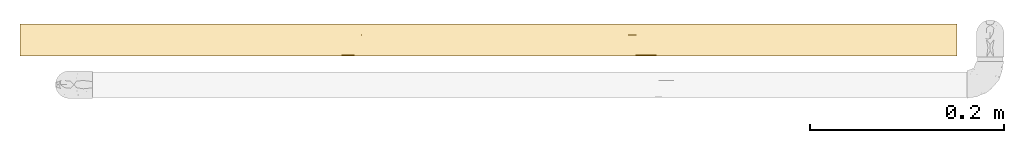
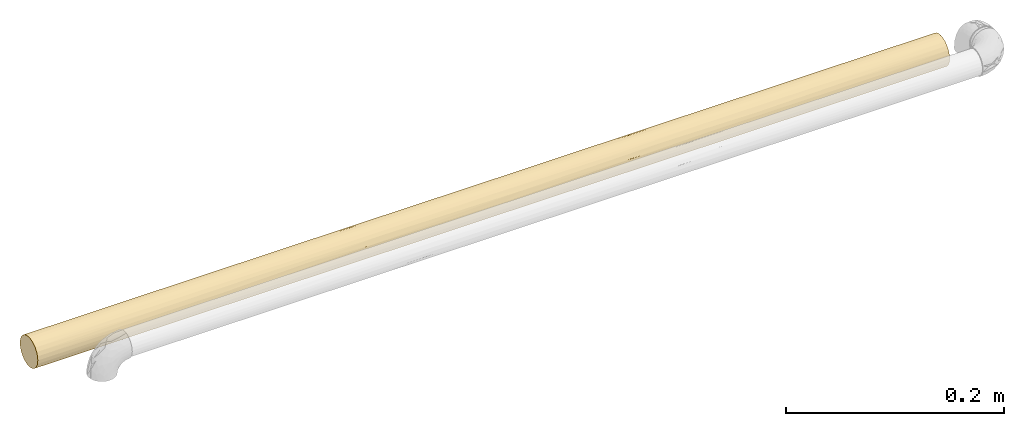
# One storey, part 1 of 4: 1 covering.
"""IFC2X3 building model written with IfcOpenShell, lengths in metres."""

from ifc_helpers import new_model, entity, si_unit, converted_unit, derived_unit, direction, frame, origin, place, context, subcontext, project, spatial, faceted_brep, material, type_object, element, save


model = new_model("IFC2X3")

# Units and contexts
model_context = context("Model", 3, precision=1e-05, world=origin(), true_north=direction((6.123031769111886e-17, 1.0)))
body_context = subcontext(model_context, "Body", "Model", "MODEL_VIEW")
ifc_project = project(units=[si_unit("LENGTHUNIT", "METRE"), si_unit("AREAUNIT", "SQUARE_METRE"), si_unit("VOLUMEUNIT", "CUBIC_METRE"), converted_unit("PLANEANGLEUNIT", "DEGREE", entity("IfcPlaneAngleMeasure", 0.017453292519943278), si_unit("PLANEANGLEUNIT", "RADIAN"), dimensions=[0, 0, 0, 0, 0, 0, 0]), si_unit("MASSUNIT", "GRAM", prefix="KILO"), derived_unit("MASSDENSITYUNIT", [(si_unit("MASSUNIT", "GRAM", prefix="KILO"), 1), (si_unit("LENGTHUNIT", "METRE"), -3)]), derived_unit("IONCONCENTRATIONUNIT", [(si_unit("MASSUNIT", "GRAM", prefix="KILO"), 1), (si_unit("LENGTHUNIT", "METRE"), -3)]), derived_unit("MOMENTOFINERTIAUNIT", [(si_unit("LENGTHUNIT", "METRE"), 4)]), si_unit("TIMEUNIT", "SECOND"), si_unit("FREQUENCYUNIT", "HERTZ"), si_unit("THERMODYNAMICTEMPERATUREUNIT", "DEGREE_CELSIUS"), derived_unit("THERMALTRANSMITTANCEUNIT", [(si_unit("MASSUNIT", "GRAM", prefix="KILO"), 1), (si_unit("THERMODYNAMICTEMPERATUREUNIT", "KELVIN"), -1), (si_unit("TIMEUNIT", "SECOND"), -3)]), derived_unit("THERMALCONDUCTANCEUNIT", [(si_unit("MASSUNIT", "GRAM", prefix="KILO"), 1), (si_unit("THERMODYNAMICTEMPERATUREUNIT", "KELVIN"), -1), (si_unit("TIMEUNIT", "SECOND"), -3), (si_unit("LENGTHUNIT", "METRE"), 1)]), derived_unit("VOLUMETRICFLOWRATEUNIT", [(si_unit("LENGTHUNIT", "METRE", prefix="DECI"), 3), (si_unit("TIMEUNIT", "SECOND"), -1)]), derived_unit("MASSFLOWRATEUNIT", [(si_unit("MASSUNIT", "GRAM", prefix="KILO"), 1), (si_unit("TIMEUNIT", "SECOND"), -1)]), derived_unit("ROTATIONALFREQUENCYUNIT", [(si_unit("TIMEUNIT", "SECOND"), -1)]), si_unit("ELECTRICCURRENTUNIT", "AMPERE"), si_unit("ELECTRICVOLTAGEUNIT", "VOLT"), si_unit("POWERUNIT", "WATT"), si_unit("FORCEUNIT", "NEWTON", prefix="KILO"), si_unit("ILLUMINANCEUNIT", "LUX"), si_unit("LUMINOUSFLUXUNIT", "LUMEN"), si_unit("LUMINOUSINTENSITYUNIT", "CANDELA"), si_unit("ENERGYUNIT", "JOULE"), derived_unit("USERDEFINED", [(si_unit("MASSUNIT", "GRAM", prefix="KILO"), -1), (si_unit("LENGTHUNIT", "METRE"), -2), (si_unit("TIMEUNIT", "SECOND"), 3), (si_unit("LUMINOUSFLUXUNIT", "LUMEN"), 1)]), derived_unit("USERDEFINED", [(si_unit("MASSUNIT", "GRAM", prefix="KILO"), 1), (si_unit("TIMEUNIT", "SECOND"), -3), (si_unit("LENGTHUNIT", "METRE"), 3), (si_unit("ELECTRICCURRENTUNIT", "AMPERE"), -2)]), derived_unit("SOUNDPOWERUNIT", [(si_unit("MASSUNIT", "GRAM", prefix="KILO"), 1), (si_unit("TIMEUNIT", "SECOND"), -3), (si_unit("LENGTHUNIT", "METRE"), 2)]), derived_unit("SOUNDPRESSUREUNIT", [(si_unit("MASSUNIT", "GRAM", prefix="KILO"), 1), (si_unit("LENGTHUNIT", "METRE"), -1), (si_unit("TIMEUNIT", "SECOND"), -2)]), derived_unit("LINEARVELOCITYUNIT", [(si_unit("LENGTHUNIT", "METRE"), 1), (si_unit("TIMEUNIT", "SECOND"), -1)]), si_unit("PRESSUREUNIT", "PASCAL"), derived_unit("USERDEFINED", [(si_unit("MASSUNIT", "GRAM", prefix="KILO"), 1), (si_unit("LENGTHUNIT", "METRE"), -2), (si_unit("TIMEUNIT", "SECOND"), -2)]), derived_unit("LINEARFORCEUNIT", [(si_unit("MASSUNIT", "GRAM", prefix="KILO"), 1), (si_unit("TIMEUNIT", "SECOND"), -2)]), derived_unit("PLANARFORCEUNIT", [(si_unit("MASSUNIT", "GRAM", prefix="KILO"), 1), (si_unit("LENGTHUNIT", "METRE"), -1), (si_unit("TIMEUNIT", "SECOND"), -2)]), derived_unit("SPECIFICHEATCAPACITYUNIT", [(si_unit("THERMODYNAMICTEMPERATUREUNIT", "KELVIN"), -1), (si_unit("LENGTHUNIT", "METRE"), 2), (si_unit("TIMEUNIT", "SECOND"), -2)]), derived_unit("HEATFLUXDENSITYUNIT", [(si_unit("MASSUNIT", "GRAM", prefix="KILO"), 1), (si_unit("TIMEUNIT", "SECOND"), -3)]), derived_unit("HEATINGVALUEUNIT", [(si_unit("LENGTHUNIT", "METRE"), 2), (si_unit("TIMEUNIT", "SECOND"), -2)]), derived_unit("VAPORPERMEABILITYUNIT", [(si_unit("LENGTHUNIT", "METRE"), -1), (si_unit("TIMEUNIT", "SECOND"), 1)]), derived_unit("DYNAMICVISCOSITYUNIT", [(si_unit("MASSUNIT", "GRAM", prefix="KILO"), 1), (si_unit("TIMEUNIT", "SECOND"), -1), (si_unit("LENGTHUNIT", "METRE"), -1)]), derived_unit("THERMALEXPANSIONCOEFFICIENTUNIT", [(si_unit("THERMODYNAMICTEMPERATUREUNIT", "KELVIN"), -1)]), derived_unit("MODULUSOFELASTICITYUNIT", [(si_unit("MASSUNIT", "GRAM", prefix="KILO"), 1), (si_unit("LENGTHUNIT", "METRE"), -1), (si_unit("TIMEUNIT", "SECOND"), -2)]), derived_unit("ISOTHERMALMOISTURECAPACITYUNIT", [(si_unit("MASSUNIT", "GRAM", prefix="KILO"), -1), (si_unit("LENGTHUNIT", "METRE"), 3)]), derived_unit("MOISTUREDIFFUSIVITYUNIT", [(si_unit("TIMEUNIT", "SECOND"), -1), (si_unit("LENGTHUNIT", "METRE"), 2)]), derived_unit("MASSPERLENGTHUNIT", [(si_unit("MASSUNIT", "GRAM", prefix="KILO"), 1), (si_unit("LENGTHUNIT", "METRE"), -1)]), derived_unit("THERMALRESISTANCEUNIT", [(si_unit("MASSUNIT", "GRAM", prefix="KILO"), -1), (si_unit("TIMEUNIT", "SECOND"), 3), (si_unit("THERMODYNAMICTEMPERATUREUNIT", "KELVIN"), 1)]), derived_unit("ACCELERATIONUNIT", [(si_unit("LENGTHUNIT", "METRE"), 1), (si_unit("TIMEUNIT", "SECOND"), -2)]), derived_unit("ANGULARVELOCITYUNIT", [(si_unit("TIMEUNIT", "SECOND"), -1), (si_unit("PLANEANGLEUNIT", "RADIAN"), 1)]), derived_unit("LINEARSTIFFNESSUNIT", [(si_unit("MASSUNIT", "GRAM", prefix="KILO"), 1), (si_unit("TIMEUNIT", "SECOND"), -2)]), derived_unit("WARPINGCONSTANTUNIT", [(si_unit("LENGTHUNIT", "METRE"), 6)]), derived_unit("LINEARMOMENTUNIT", [(si_unit("MASSUNIT", "GRAM", prefix="KILO"), 1), (si_unit("LENGTHUNIT", "METRE"), 1), (si_unit("TIMEUNIT", "SECOND"), -2)]), derived_unit("TORQUEUNIT", [(si_unit("MASSUNIT", "GRAM", prefix="KILO"), 1), (si_unit("LENGTHUNIT", "METRE"), 2), (si_unit("TIMEUNIT", "SECOND"), -2)])], contexts=[model_context])

# Site, building, storey
site_placement = place(None, origin())
site = spatial("IfcSite", under=ifc_project, at=site_placement, Name="Default", CompositionType="ELEMENT")
building_placement = place(site_placement, origin())
building = spatial("IfcBuilding", under=site, at=building_placement, CompositionType="ELEMENT")
storey_placement = place(building_placement, frame((0.0, 0.0, 2.4999999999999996)))
storey = spatial("IfcBuildingStorey", under=building, at=storey_placement, Name="Niveau 1", CompositionType="ELEMENT", Elevation=2.4999999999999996)

# Covering
ifc_material = material(Name="Matériau du rendu 255-255-255")
covering_type = type_object("IfcCoveringType", Name="Isolation des canalisations:Par défaut", PredefinedType="INSULATION")
covering_placement = place(storey_placement, frame((-14.57600147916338, 2.767581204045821, -0.047616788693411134)))
element("IfcCovering", 1, at=covering_placement, inside=storey, type_object=covering_type, material=ifc_material, Name="Isolation des canalisations:Par défaut", ObjectType="Isolation des canalisations:Par défaut", PredefinedType="INSULATION", context=body_context, shape_type="Brep", body=[
    faceted_brep([(0.0, 0.002152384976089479, -0.02217696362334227), (0.0, 0.0015952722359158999, -0.017945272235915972), (0.0, 0.002152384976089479, -0.013713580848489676), (0.0, 0.0037857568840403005, -0.009770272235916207), (0.0, 0.006384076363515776, -0.006384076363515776), (0.0, 0.009770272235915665, -0.0037857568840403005), (0.0, 0.013713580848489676, -0.002152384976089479), (0.0, 0.017945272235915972, -0.0015952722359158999), (0.0, 0.02217696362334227, -0.002152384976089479), (0.0, 0.02612027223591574, -0.0037857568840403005), (0.0, 0.02950646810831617, -0.006384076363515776), (0.0, 0.032104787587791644, -0.009770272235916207), (0.0, 0.033738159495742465, -0.013713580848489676), (0.0, 0.034295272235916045, -0.017945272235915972), (0.0, 0.033738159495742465, -0.02217696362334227), (0.0, 0.032104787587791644, -0.02612027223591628), (0.0, 0.02950646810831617, -0.02950646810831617), (0.0, 0.02612027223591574, -0.032104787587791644), (0.0, 0.02217696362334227, -0.03373815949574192), (0.0, 0.017945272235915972, -0.034295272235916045), (0.0, 0.013713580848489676, -0.03373815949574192), (0.0, 0.009770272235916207, -0.032104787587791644), (0.0, 0.006384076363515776, -0.02950646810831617), (0.0, 0.0037857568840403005, -0.02612027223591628), (0.9664000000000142, 0.0037857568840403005, -0.026120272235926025), (0.9664000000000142, 0.006384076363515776, -0.029506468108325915), (0.9664000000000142, 0.009770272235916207, -0.032104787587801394), (0.9664000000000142, 0.013713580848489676, -0.03373815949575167), (0.9664000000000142, 0.017945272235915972, -0.034295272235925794), (0.9664000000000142, 0.02217696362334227, -0.03373815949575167), (0.9664000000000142, 0.02612027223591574, -0.032104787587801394), (0.9664000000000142, 0.02950646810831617, -0.029506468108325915), (0.9664000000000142, 0.032104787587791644, -0.026120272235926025), (0.9664000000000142, 0.033738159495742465, -0.022176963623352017), (0.9664000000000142, 0.034295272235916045, -0.017945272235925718), (0.9664000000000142, 0.033738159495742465, -0.013713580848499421), (0.9664000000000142, 0.032104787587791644, -0.009770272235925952), (0.9664000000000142, 0.02950646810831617, -0.006384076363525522), (0.9664000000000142, 0.02612027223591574, -0.0037857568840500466), (0.9664000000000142, 0.02217696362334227, -0.002152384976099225), (0.9664000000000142, 0.017945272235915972, -0.0015952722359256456), (0.9664000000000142, 0.013713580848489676, -0.002152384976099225), (0.9664000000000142, 0.009770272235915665, -0.0037857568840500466), (0.9664000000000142, 0.006384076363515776, -0.006384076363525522), (0.9664000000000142, 0.0037857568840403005, -0.009770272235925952), (0.9664000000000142, 0.002152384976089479, -0.013713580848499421), (0.9664000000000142, 0.0015952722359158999, -0.017945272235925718), (0.9664000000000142, 0.002152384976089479, -0.022176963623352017), (0.8773845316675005, 0.02789852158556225, -0.030916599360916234), (0.40164985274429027, 0.034295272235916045, -0.017945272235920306), (0.34201247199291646, 0.033942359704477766, -0.021323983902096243), (0.2823750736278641, 0.034295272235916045, -0.01794527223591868), (0.4886665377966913, 0.03201548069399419, -0.02627304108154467), (0.45397520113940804, 0.029688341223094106, -0.029321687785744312), (0.37914119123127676, 0.03105394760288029, -0.027716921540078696), (0.8396153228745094, 0.03091659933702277, -0.027898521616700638), (0.7713295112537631, 0.03305070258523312, -0.024202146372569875), (0.8786145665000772, 0.033050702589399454, -0.02420214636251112), (0.660324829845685, 0.02109354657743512, -0.033989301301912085), (0.6883694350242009, 0.024084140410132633, -0.0330990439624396), (0.7546186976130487, 0.021016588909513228, -0.03400421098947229), (0.824972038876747, 0.03392628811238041, -0.021399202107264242), (0.8252124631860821, 0.034295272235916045, -0.017945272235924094), (0.7226715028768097, 0.03396491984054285, -0.021215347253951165), (0.2172714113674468, 0.033877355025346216, -0.021618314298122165), (0.8388278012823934, 0.02420214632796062, -0.033050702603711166), (0.5831631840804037, 0.027249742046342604, -0.031389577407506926), (0.6765246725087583, 0.029184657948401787, -0.029819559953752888), (0.6896230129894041, 0.026801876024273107, -0.03168874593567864), (0.11975167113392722, 0.0330507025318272, -0.02420214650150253), (0.22269615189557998, 0.03264665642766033, -0.025100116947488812), (0.6481070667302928, 0.032938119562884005, -0.02446731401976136), (0.7162560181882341, 0.031370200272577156, -0.02727767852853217), (0.6032004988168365, 0.03091659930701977, -0.027898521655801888), (0.07599774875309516, 0.03091659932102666, -0.027898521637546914), (0.11975166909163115, 0.027898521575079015, -0.030916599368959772), (0.4408931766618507, 0.021472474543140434, -0.03391027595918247), (0.40164987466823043, 0.017945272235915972, -0.034295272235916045), (0.34201246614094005, 0.023062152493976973, -0.03347395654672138), (0.07599774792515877, 0.02420214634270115, -0.03305070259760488), (0.14118753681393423, 0.034295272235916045, -0.017945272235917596), (0.09382632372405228, 0.034009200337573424, -0.02099038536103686), (0.1738724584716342, 0.0309165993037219, -0.027898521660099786), (0.21540548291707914, 0.028744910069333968, -0.03022087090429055), (0.17387245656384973, 0.024202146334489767, -0.03305070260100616), (0.28237508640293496, 0.017945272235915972, -0.034295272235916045), (0.14118754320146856, 0.017945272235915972, -0.034295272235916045), (0.12493510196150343, 0.02133072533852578, -0.033940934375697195), (0.23223500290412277, 0.021217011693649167, -0.033964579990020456), (0.6840249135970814, 0.017945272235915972, -0.034295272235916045), (0.5647501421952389, 0.017945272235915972, -0.034295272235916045), (0.5428373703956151, 0.017945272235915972, -0.034295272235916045), (0.4239004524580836, 0.033413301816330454, -0.02324268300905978), (0.3420124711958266, 0.03265503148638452, -0.02508288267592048), (0.2827763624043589, 0.031001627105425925, -0.027786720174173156), (0.2598773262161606, 0.023936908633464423, -0.03315785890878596), (0.45638938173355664, 0.026049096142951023, -0.03214564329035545), (0.5428373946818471, 0.02283134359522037, -0.03354811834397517), (0.7690906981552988, 0.027898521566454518, -0.030916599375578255), (0.8252124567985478, 0.017945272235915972, -0.034295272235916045), (0.8488832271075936, 0.021092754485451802, -0.033989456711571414), (0.31105929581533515, 0.02789852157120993, -0.030916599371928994), (0.5228243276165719, 0.03357007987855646, -0.022760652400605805), (0.6148392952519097, 0.03403924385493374, -0.02082738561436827), (0.5428373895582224, 0.034295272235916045, -0.01794527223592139), (0.6840249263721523, 0.034295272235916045, -0.017945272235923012), (0.4235626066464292, 0.017945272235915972, -0.034295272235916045), (0.7713295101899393, 0.002839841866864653, -0.02420214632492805), (0.8249720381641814, 0.0019642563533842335, -0.021399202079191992), (0.7226715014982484, 0.00192562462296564, -0.02121534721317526), (0.6243875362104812, 0.01277819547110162, -0.033457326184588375), (0.839615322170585, 0.004973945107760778, -0.027898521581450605), (0.8580045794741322, 0.007992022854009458, -0.030916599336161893), (0.8786145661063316, 0.00283984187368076, -0.0242021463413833), (0.893527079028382, 0.011688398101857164, -0.03305070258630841), (0.1414279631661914, 0.0144913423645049, -0.03392628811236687), (0.19507049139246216, 0.011688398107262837, -0.03305070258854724), (0.08778543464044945, 0.01168839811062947, -0.03305070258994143), (0.07884681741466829, 0.004973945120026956, -0.027898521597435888), (0.6679527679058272, 0.007992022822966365, -0.030916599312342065), (0.7629786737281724, 0.008839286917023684, -0.03152479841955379), (0.7050834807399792, 0.004846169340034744, -0.027729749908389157), (0.35296884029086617, 0.012950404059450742, -0.03351363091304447), (0.49415637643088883, 0.01398480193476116, -0.03380834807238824), (0.515576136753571, 0.009191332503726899, -0.031754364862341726), (0.1411875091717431, 0.0015952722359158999, -0.017945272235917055), (0.09405018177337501, 0.0018830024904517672, -0.020999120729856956), (0.21785851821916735, 0.0020106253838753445, -0.02160717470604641), (0.12135929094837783, 0.0028398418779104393, -0.024202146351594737), (0.40164974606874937, 0.0015952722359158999, -0.017945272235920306), (0.34201246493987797, 0.001945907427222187, -0.021313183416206), (0.46034606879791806, 0.001983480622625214, -0.021486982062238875), (0.8457927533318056, 0.014585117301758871, -0.03394626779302), (0.7370502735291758, 0.01467186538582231, -0.03396423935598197), (0.17894987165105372, 0.004973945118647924, -0.02789852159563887), (0.12135929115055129, 0.007992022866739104, -0.030916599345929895), (0.8252122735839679, 0.0015952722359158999, -0.017945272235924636), (0.2823750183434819, 0.0015952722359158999, -0.01794527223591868), (0.36319950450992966, 0.007992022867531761, -0.030916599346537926), (0.4771811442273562, 0.005142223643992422, -0.028114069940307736), (0.342012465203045, 0.003226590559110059, -0.02506446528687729), (0.24227939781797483, 0.007486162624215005, -0.030512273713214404), (0.31771535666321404, 0.005341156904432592, -0.02835962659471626), (0.709024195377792, 0.011861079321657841, -0.033121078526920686), (0.7980584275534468, 0.011688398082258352, -0.03305070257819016), (0.24372850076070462, 0.014675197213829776, -0.033964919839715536), (0.2895823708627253, 0.010201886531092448, -0.03234535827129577), (0.22383177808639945, 0.0032271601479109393, -0.025065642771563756), (0.5428372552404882, 0.0015952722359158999, -0.01794527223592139), (0.4235627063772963, 0.0015952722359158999, -0.017945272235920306), (0.5930290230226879, 0.005674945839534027, -0.02875089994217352), (0.6148584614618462, 0.0018512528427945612, -0.02082711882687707), (0.5551037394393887, 0.00269685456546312, -0.02384512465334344), (0.662916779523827, 0.002843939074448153, -0.02421202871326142), (0.4534548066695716, 0.003204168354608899, -0.02501792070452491), (0.6014906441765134, 0.003857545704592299, -0.026243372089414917), (0.6840247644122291, 0.0015952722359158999, -0.017945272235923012), (0.5647502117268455, 0.0015952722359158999, -0.01794527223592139), (0.7713295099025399, 0.011688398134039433, -0.002839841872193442), (0.8249720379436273, 0.014491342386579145, -0.0019642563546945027), (0.72267150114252, 0.014675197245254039, -0.0019256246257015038), (0.6243875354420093, 0.002433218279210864, -0.012778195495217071), (0.8396153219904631, 0.007992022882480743, -0.004973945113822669), (0.8580045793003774, 0.0049739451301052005, -0.00799202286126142), (0.8786145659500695, 0.011688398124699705, -0.0028398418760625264), (0.8935270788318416, 0.0028398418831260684, -0.01168839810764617), (0.14142796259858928, 0.0019642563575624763, -0.014491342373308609), (0.1950704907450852, 0.002839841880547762, -0.011688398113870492), (0.08778543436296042, 0.0028398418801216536, -0.011688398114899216), (0.07884681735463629, 0.007992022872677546, -0.0049739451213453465), (0.6679527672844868, 0.004973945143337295, -0.007992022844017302), (0.7629786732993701, 0.004365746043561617, -0.008839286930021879), (0.705083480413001, 0.00816079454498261, -0.0048461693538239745), (0.35296883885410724, 0.002376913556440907, -0.012950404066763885), (0.49415637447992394, 0.002082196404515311, -0.013984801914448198), (0.5155761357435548, 0.0041361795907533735, -0.009191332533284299), (0.14118730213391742, 0.017945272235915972, -0.0015952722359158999), (0.09405018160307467, 0.014891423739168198, -0.0018830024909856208), (0.21785851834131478, 0.014283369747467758, -0.0020106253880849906), (0.12135929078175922, 0.011688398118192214, -0.0028398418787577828), (0.4016495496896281, 0.017945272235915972, -0.0015952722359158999), (0.3420124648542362, 0.014577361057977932, -0.0019459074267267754), (0.4603460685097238, 0.014403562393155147, -0.0019834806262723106), (0.8457927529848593, 0.0019442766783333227, -0.014585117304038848), (0.7370502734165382, 0.0019263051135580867, -0.014671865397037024), (0.17894987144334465, 0.007992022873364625, -0.004973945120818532), (0.1213592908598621, 0.004973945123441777, -0.007992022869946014), (0.8252122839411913, 0.017945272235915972, -0.0015952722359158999), (0.28237460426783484, 0.017945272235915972, -0.0015952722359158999), (0.3631995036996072, 0.004973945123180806, -0.007992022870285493), (0.47718114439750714, 0.007776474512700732, -0.005142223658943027), (0.34201246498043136, 0.0108260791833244, -0.0032265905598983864), (0.24227939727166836, 0.0053782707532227, -0.007486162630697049), (0.31771535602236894, 0.007530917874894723, -0.00534115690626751), (0.7090241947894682, 0.002769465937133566, -0.011861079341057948), (0.7980584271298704, 0.0028398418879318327, -0.011688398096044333), (0.243728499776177, 0.001925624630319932, -0.014675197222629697), (0.28958237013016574, 0.003545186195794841, -0.010201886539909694), (0.22383177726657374, 0.010824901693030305, -0.00322716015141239), (0.542837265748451, 0.017945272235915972, -0.0015952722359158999), (0.42356237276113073, 0.017945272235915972, -0.0015952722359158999), (0.5930290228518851, 0.007139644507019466, -0.005674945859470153), (0.6148584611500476, 0.015063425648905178, -0.0018512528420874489), (0.5551037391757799, 0.012045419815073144, -0.0026968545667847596), (0.6629167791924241, 0.011678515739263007, -0.002843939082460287), (0.45345480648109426, 0.010872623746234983, -0.003204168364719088), (0.601490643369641, 0.009647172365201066, -0.003857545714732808), (0.6840249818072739, 0.017945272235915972, -0.0015952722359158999), (0.5647497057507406, 0.017945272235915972, -0.0015952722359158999), (0.7713295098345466, 0.033050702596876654, -0.011688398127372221), (0.8249720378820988, 0.03392628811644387, -0.014491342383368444), (0.722671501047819, 0.03396491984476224, -0.014675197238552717), (0.6243875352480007, 0.023112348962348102, -0.002433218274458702), (0.8396153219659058, 0.03091659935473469, -0.007992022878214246), (0.8580045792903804, 0.02789852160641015, -0.004973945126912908), (0.8786145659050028, 0.03305070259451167, -0.011688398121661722), (0.8935270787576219, 0.024202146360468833, -0.002839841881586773), (0.14142796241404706, 0.021399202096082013, -0.0019642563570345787), (0.19507049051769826, 0.024202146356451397, -0.0028398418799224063), (0.08778543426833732, 0.02420214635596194, -0.0028398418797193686), (0.07884681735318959, 0.030916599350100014, -0.007992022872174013), (0.6679527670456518, 0.027898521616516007, -0.004973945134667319), (0.7629786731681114, 0.02705125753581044, -0.0043657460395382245), (0.7050834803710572, 0.031044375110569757, -0.008160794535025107), (0.35296883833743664, 0.0229401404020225, -0.0023769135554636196), (0.49415637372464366, 0.021905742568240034, -0.0020821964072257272), (0.5155761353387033, 0.026699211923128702, -0.004136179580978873), (0.09405018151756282, 0.03400754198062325, -0.014891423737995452), (0.21785851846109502, 0.03387991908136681, -0.014283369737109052), (0.12135929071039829, 0.03305070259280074, -0.011688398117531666), (0.3420124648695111, 0.033944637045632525, -0.01457736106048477), (0.46034606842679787, 0.03390706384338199, -0.014403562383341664), (0.8457927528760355, 0.021305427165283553, -0.0019442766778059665), (0.7370502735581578, 0.021218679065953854, -0.001926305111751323), (0.17894987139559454, 0.030916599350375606, -0.007992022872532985), (0.12135929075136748, 0.02789852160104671, -0.004973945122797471), (0.363199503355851, 0.027898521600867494, -0.004973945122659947), (0.47718114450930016, 0.030748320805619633, -0.007776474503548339), (0.34201246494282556, 0.03266395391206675, -0.010826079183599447), (0.24227939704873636, 0.028404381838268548, -0.005378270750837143), (0.3177153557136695, 0.03054938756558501, -0.007530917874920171), (0.7090241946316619, 0.02402946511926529, -0.002769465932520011), (0.7980584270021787, 0.024202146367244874, -0.0028398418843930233), (0.24372849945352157, 0.021215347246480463, -0.001925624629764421), (0.28958236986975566, 0.025688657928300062, -0.0035451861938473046), (0.22383177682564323, 0.03266338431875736, -0.010824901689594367), (0.5930290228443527, 0.030215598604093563, -0.007139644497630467), (0.6148584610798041, 0.03403929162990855, -0.015063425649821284), (0.5551037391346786, 0.0331936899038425, -0.012045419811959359), (0.6629167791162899, 0.033046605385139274, -0.011678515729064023), (0.45345480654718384, 0.03268637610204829, -0.010872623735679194), (0.6014906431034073, 0.0320329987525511, -0.009647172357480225)], [[[0, 1, 2, 3, 4, 5, 6, 7, 8, 9, 10, 11, 12, 13, 14, 15, 16, 17, 18, 19, 20, 21, 22, 23]], [[24, 25, 26, 27, 28, 29, 30, 31, 32, 33, 34, 35, 36, 37, 38, 39, 40, 41, 42, 43, 44, 45, 46, 47]], [[48, 31, 30]], [[49, 50, 51]], [[52, 53, 54]], [[55, 56, 57]], [[58, 59, 60]], [[57, 61, 33]], [[62, 61, 63]], [[64, 51, 50]], [[30, 29, 65]], [[66, 67, 68]], [[69, 64, 70]], [[71, 72, 73]], [[74, 75, 16]], [[76, 77, 78]], [[79, 18, 17]], [[13, 80, 81]], [[82, 74, 69]], [[73, 66, 53]], [[16, 75, 17]], [[57, 33, 32]], [[74, 16, 15]], [[83, 84, 75]], [[77, 85, 78]], [[86, 87, 88]], [[58, 89, 90, 91]], [[50, 92, 93]], [[32, 31, 55]], [[56, 71, 63]], [[15, 14, 69]], [[94, 82, 70]], [[88, 95, 78]], [[79, 87, 18]], [[85, 86, 88]], [[96, 66, 97]], [[98, 48, 65]], [[28, 99, 100]], [[53, 96, 101]], [[65, 59, 98]], [[48, 55, 31]], [[33, 61, 34]], [[98, 67, 72]], [[99, 60, 100]], [[60, 99, 89]], [[83, 75, 82]], [[79, 75, 84]], [[14, 81, 69]], [[18, 87, 19]], [[80, 51, 64]], [[100, 60, 65]], [[66, 59, 97]], [[96, 53, 66]], [[67, 73, 72]], [[54, 101, 94]], [[93, 92, 52]], [[49, 102, 92]], [[82, 69, 70]], [[103, 104, 105]], [[105, 62, 63]], [[93, 64, 50]], [[64, 69, 81]], [[76, 96, 97]], [[101, 96, 78]], [[65, 48, 30]], [[55, 48, 98]], [[55, 57, 32]], [[61, 57, 56]], [[61, 56, 63]], [[61, 62, 34]], [[56, 72, 71]], [[105, 63, 103]], [[52, 71, 73]], [[102, 49, 104]], [[103, 71, 102]], [[71, 103, 63]], [[104, 103, 102]], [[56, 55, 72]], [[98, 72, 55]], [[68, 67, 98]], [[66, 73, 67]], [[49, 92, 50]], [[92, 102, 52]], [[71, 52, 102]], [[73, 53, 52]], [[64, 93, 70]], [[94, 70, 93]], [[54, 94, 93]], [[83, 94, 101]], [[52, 54, 93]], [[101, 54, 53]], [[98, 59, 68]], [[66, 68, 59]], [[58, 60, 89]], [[65, 60, 59]], [[58, 91, 97]], [[97, 59, 58]], [[65, 29, 100]], [[28, 100, 29]], [[69, 74, 15]], [[75, 74, 82]], [[75, 79, 17]], [[87, 79, 84]], [[87, 84, 88]], [[87, 86, 19]], [[95, 88, 84]], [[78, 85, 88]], [[83, 95, 84]], [[101, 78, 95]], [[96, 76, 78]], [[76, 91, 106, 77]], [[91, 76, 97]], [[94, 83, 82]], [[83, 101, 95]], [[13, 81, 14]], [[64, 81, 80]], [[107, 108, 109]], [[90, 89, 110]], [[111, 112, 25]], [[108, 107, 113]], [[25, 112, 26]], [[114, 27, 26]], [[47, 113, 24]], [[115, 116, 117]], [[117, 21, 20]], [[118, 23, 22]], [[113, 111, 24]], [[24, 111, 25]], [[119, 120, 121]], [[122, 123, 124]], [[125, 126, 127]], [[128, 0, 23]], [[129, 130, 131]], [[115, 19, 86]], [[99, 132, 133]], [[134, 118, 135]], [[126, 1, 0]], [[46, 136, 108]], [[110, 119, 124]], [[129, 137, 130]], [[138, 124, 139]], [[140, 130, 127]], [[123, 106, 91, 90]], [[141, 134, 135]], [[22, 21, 135]], [[134, 141, 142]], [[133, 143, 110]], [[114, 132, 27]], [[89, 99, 133]], [[122, 85, 77, 106]], [[23, 118, 128]], [[121, 111, 107]], [[136, 109, 108]], [[112, 120, 144]], [[116, 115, 145]], [[86, 145, 115]], [[110, 123, 90]], [[146, 138, 141]], [[117, 135, 21]], [[116, 146, 141]], [[128, 147, 127]], [[126, 0, 128]], [[131, 148, 149, 129]], [[27, 132, 28]], [[142, 139, 140]], [[111, 121, 120]], [[114, 112, 144]], [[135, 117, 116]], [[119, 121, 150]], [[122, 124, 138]], [[150, 124, 119]], [[151, 152, 153]], [[127, 130, 137]], [[131, 154, 152]], [[125, 127, 137]], [[128, 134, 147]], [[155, 154, 139]], [[154, 130, 140]], [[131, 152, 151]], [[109, 153, 107]], [[155, 139, 150]], [[124, 123, 110]], [[122, 106, 123]], [[130, 154, 131]], [[140, 139, 154]], [[116, 141, 135]], [[142, 141, 138]], [[139, 142, 138]], [[142, 140, 147]], [[121, 153, 155]], [[124, 150, 139]], [[47, 46, 108]], [[111, 113, 107]], [[128, 118, 134]], [[47, 108, 113]], [[109, 136, 156]], [[151, 109, 156]], [[109, 151, 153]], [[151, 156, 157, 148]], [[131, 151, 148]], [[155, 153, 152]], [[121, 107, 153]], [[20, 19, 115]], [[20, 115, 117]], [[145, 86, 85]], [[85, 122, 145]], [[146, 145, 122]], [[145, 146, 116]], [[122, 138, 146]], [[142, 147, 134]], [[140, 127, 147]], [[155, 152, 154]], [[121, 155, 150]], [[135, 118, 22]], [[112, 114, 26]], [[132, 114, 144]], [[132, 144, 133]], [[132, 99, 28]], [[143, 133, 144]], [[110, 89, 133]], [[120, 143, 144]], [[119, 110, 143]], [[127, 126, 128]], [[1, 126, 125]], [[120, 112, 111]], [[143, 120, 119]], [[158, 159, 160]], [[157, 156, 161]], [[162, 163, 43]], [[159, 158, 164]], [[43, 163, 44]], [[165, 45, 44]], [[41, 164, 42]], [[166, 167, 168]], [[168, 3, 2]], [[169, 5, 4]], [[164, 162, 42]], [[42, 162, 43]], [[170, 171, 172]], [[173, 174, 175]], [[176, 177, 178]], [[179, 6, 5]], [[180, 181, 182]], [[166, 1, 125]], [[136, 183, 184]], [[185, 169, 186]], [[177, 7, 6]], [[40, 187, 159]], [[161, 170, 175]], [[180, 188, 181]], [[189, 175, 190]], [[191, 181, 178]], [[174, 149, 148, 157]], [[192, 185, 186]], [[4, 3, 186]], [[185, 192, 193]], [[184, 194, 161]], [[165, 183, 45]], [[156, 136, 184]], [[173, 137, 129, 149]], [[5, 169, 179]], [[172, 162, 158]], [[187, 160, 159]], [[163, 171, 195]], [[167, 166, 196]], [[125, 196, 166]], [[161, 174, 157]], [[197, 189, 192]], [[168, 186, 3]], [[167, 197, 192]], [[179, 198, 178]], [[177, 6, 179]], [[182, 199, 200, 180]], [[45, 183, 46]], [[193, 190, 191]], [[162, 172, 171]], [[165, 163, 195]], [[170, 172, 201]], [[173, 175, 189]], [[201, 175, 170]], [[202, 203, 204]], [[178, 181, 188]], [[182, 205, 203]], [[176, 178, 188]], [[179, 185, 198]], [[206, 205, 190]], [[205, 181, 191]], [[182, 203, 202]], [[160, 204, 158]], [[206, 190, 201]], [[175, 174, 161]], [[173, 149, 174]], [[181, 205, 182]], [[191, 190, 205]], [[167, 192, 186]], [[193, 192, 189]], [[190, 193, 189]], [[193, 191, 198]], [[172, 204, 206]], [[175, 201, 190]], [[41, 40, 159]], [[162, 164, 158]], [[41, 159, 164]], [[160, 187, 207]], [[202, 160, 207]], [[160, 202, 204]], [[202, 207, 208, 199]], [[182, 202, 199]], [[206, 204, 203]], [[172, 158, 204]], [[2, 1, 166]], [[186, 168, 167]], [[2, 166, 168]], [[196, 125, 137]], [[137, 173, 196]], [[197, 196, 173]], [[196, 197, 167]], [[173, 189, 197]], [[193, 198, 185]], [[191, 178, 198]], [[206, 203, 205]], [[172, 206, 201]], [[186, 169, 4]], [[179, 169, 185]], [[163, 165, 44]], [[183, 165, 195]], [[183, 195, 184]], [[183, 136, 46]], [[194, 184, 195]], [[161, 156, 184]], [[171, 194, 195]], [[170, 161, 194]], [[178, 177, 179]], [[7, 177, 176]], [[171, 163, 162]], [[194, 171, 170]], [[209, 210, 211]], [[208, 207, 212]], [[213, 214, 37]], [[210, 209, 215]], [[37, 214, 38]], [[216, 39, 38]], [[35, 215, 36]], [[217, 218, 219]], [[219, 9, 8]], [[220, 11, 10]], [[215, 213, 36]], [[36, 213, 37]], [[221, 222, 223]], [[224, 225, 226]], [[80, 227, 228]], [[229, 12, 11]], [[49, 230, 231]], [[217, 7, 176]], [[187, 232, 233]], [[234, 220, 235]], [[227, 13, 12]], [[34, 62, 210]], [[212, 221, 226]], [[49, 51, 230]], [[236, 226, 237]], [[238, 230, 228]], [[225, 200, 199, 208]], [[239, 234, 235]], [[10, 9, 235]], [[234, 239, 240]], [[233, 241, 212]], [[216, 232, 39]], [[207, 187, 233]], [[224, 188, 180, 200]], [[11, 220, 229]], [[223, 213, 209]], [[62, 211, 210]], [[214, 222, 242]], [[218, 217, 243]], [[176, 243, 217]], [[212, 225, 208]], [[244, 236, 239]], [[219, 235, 9]], [[218, 244, 239]], [[229, 245, 228]], [[227, 12, 229]], [[104, 49, 231]], [[39, 232, 40]], [[240, 237, 238]], [[213, 223, 222]], [[216, 214, 242]], [[235, 219, 218]], [[221, 223, 246]], [[224, 226, 236]], [[246, 226, 221]], [[247, 248, 249]], [[228, 230, 51]], [[231, 250, 248]], [[80, 228, 51]], [[229, 234, 245]], [[251, 250, 237]], [[250, 230, 238]], [[231, 248, 247]], [[211, 249, 209]], [[251, 237, 246]], [[226, 225, 212]], [[224, 200, 225]], [[230, 250, 231]], [[238, 237, 250]], [[218, 239, 235]], [[240, 239, 236]], [[237, 240, 236]], [[240, 238, 245]], [[223, 249, 251]], [[226, 246, 237]], [[35, 34, 210]], [[213, 215, 209]], [[229, 220, 234]], [[35, 210, 215]], [[211, 62, 105]], [[247, 211, 105]], [[211, 247, 249]], [[105, 104, 247]], [[231, 247, 104]], [[251, 249, 248]], [[223, 209, 249]], [[8, 7, 217]], [[8, 217, 219]], [[243, 176, 188]], [[188, 224, 243]], [[244, 243, 224]], [[243, 244, 218]], [[224, 236, 244]], [[240, 245, 234]], [[238, 228, 245]], [[251, 248, 250]], [[223, 251, 246]], [[235, 220, 10]], [[214, 216, 38]], [[232, 216, 242]], [[232, 242, 233]], [[232, 187, 40]], [[241, 233, 242]], [[212, 207, 233]], [[222, 241, 242]], [[221, 212, 241]], [[228, 227, 229]], [[13, 227, 80]], [[222, 214, 213]], [[241, 222, 221]]]),
])

save(model, "model.ifc")
